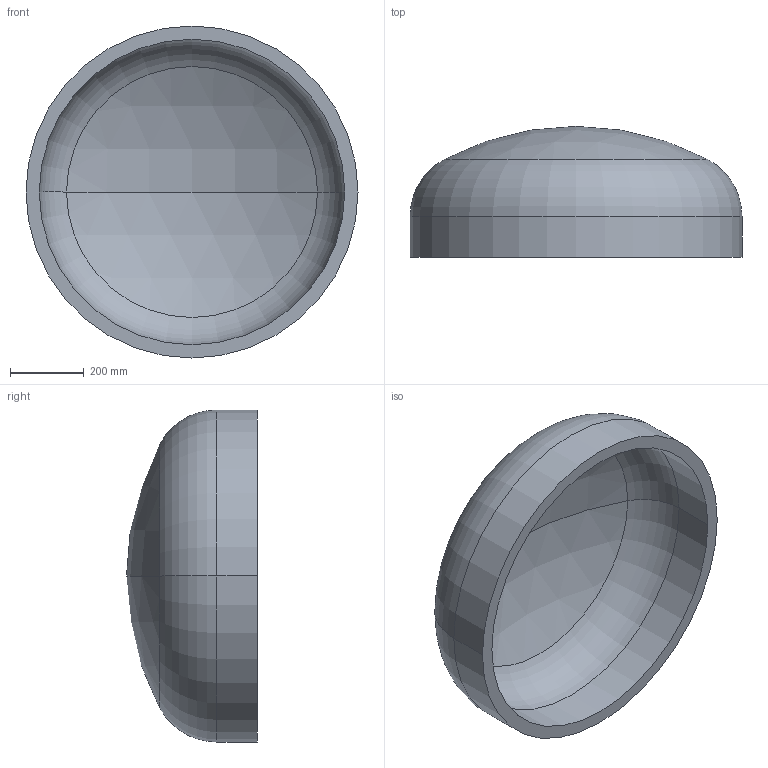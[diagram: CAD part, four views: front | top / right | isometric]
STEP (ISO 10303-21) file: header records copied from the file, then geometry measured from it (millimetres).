
FILE_DESCRIPTION (( 'STEP AP203' ), '1' );
FILE_NAME ('DIN 28013 Korbbogenform_-_Boden DIN 28013 - 900 x 110 - I - s=36.step', '2016-07-01T08:30:31', ( '' ), ( '' ), 'SwSTEP 2.0', 'SolidWorks 2013', '' );
FILE_SCHEMA (( 'CONFIG_CONTROL_DESIGN' ));
Length unit declared in the file: millimetre
Products named in the file (1): DIN 28013 Korbbogenform_-_Boden DIN 28013 - 900 x 110 - I - s=36
Bounding box: 900 x 354.8 x 900 mm (x, y, z)
Volume: 40927679.7 mm3; surface area: 2374189.9 mm2
Topology: 1 solids, 1 shells, 13 faces, 24 edges, 14 vertices
Faces by surface type: torus 4, cylinder 4, sphere 4, plane 1
Entity records: 407 total; most frequent: DIRECTION 72, CARTESIAN_POINT 52, ORIENTED_EDGE 48, AXIS2_PLACEMENT_3D 34, EDGE_CURVE 24, CIRCLE 20, EDGE_LOOP 14, VERTEX_POINT 14
